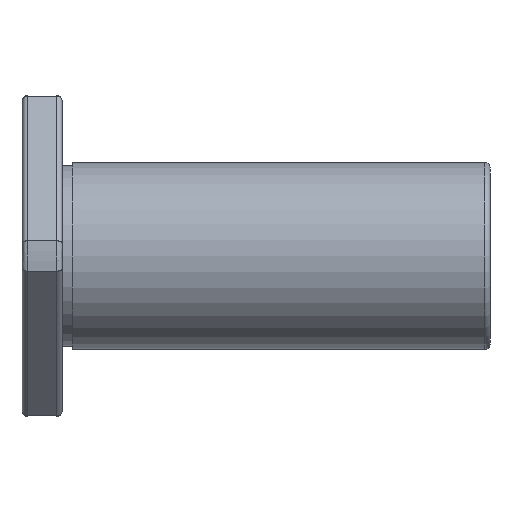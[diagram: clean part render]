
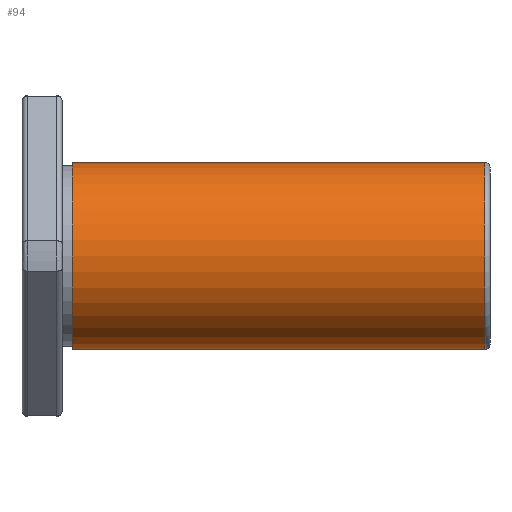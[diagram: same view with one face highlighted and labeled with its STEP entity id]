
A CAD part, front view. The second image highlights one B-rep face of the part: STEP entity #94.
In plain terms, the highlighted cylindrical face has radius 14 mm (diameter 28 mm), a full revolution.
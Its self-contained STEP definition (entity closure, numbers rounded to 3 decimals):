
#94 = ADVANCED_FACE( '', ( #229, #230 ), #231, .T. );
#229 = FACE_OUTER_BOUND( '', #412, .T. );
#230 = FACE_OUTER_BOUND( '', #413, .T. );
#231 = CYLINDRICAL_SURFACE( '', #414, 14. );
#412 = EDGE_LOOP( '', ( #631 ) );
#413 = EDGE_LOOP( '', ( #632 ) );
#414 = AXIS2_PLACEMENT_3D( '', #633, #634, #635 );
#631 = ORIENTED_EDGE( '', *, *, #958, .F. );
#632 = ORIENTED_EDGE( '', *, *, #961, .T. );
#633 = CARTESIAN_POINT( '', ( 21.4, 0., 0. ) );
#634 = DIRECTION( '', ( -1., 0., 0. ) );
#635 = DIRECTION( '', ( 0., 1., 0. ) );
#958 = EDGE_CURVE( '', #1127, #1127, #1128, .F. );
#961 = EDGE_CURVE( '', #1132, #1132, #1133, .F. );
#1127 = VERTEX_POINT( '', #1363 );
#1128 = CIRCLE( '', #1364, 14. );
#1132 = VERTEX_POINT( '', #1368 );
#1133 = CIRCLE( '', #1369, 14. );
#1363 = CARTESIAN_POINT( '', ( 7.5, 0., -14. ) );
#1364 = AXIS2_PLACEMENT_3D( '', #1656, #1657, #1658 );
#1368 = CARTESIAN_POINT( '', ( 69.2, 14., 0. ) );
#1369 = AXIS2_PLACEMENT_3D( '', #1662, #1663, #1664 );
#1656 = CARTESIAN_POINT( '', ( 7.5, 0., 0. ) );
#1657 = DIRECTION( '', ( 1., 0., 0. ) );
#1658 = DIRECTION( '', ( 0., 0., -1. ) );
#1662 = CARTESIAN_POINT( '', ( 69.2, 0., 0. ) );
#1663 = DIRECTION( '', ( 1., 0., 0. ) );
#1664 = DIRECTION( '', ( 0., 0., -1. ) );
